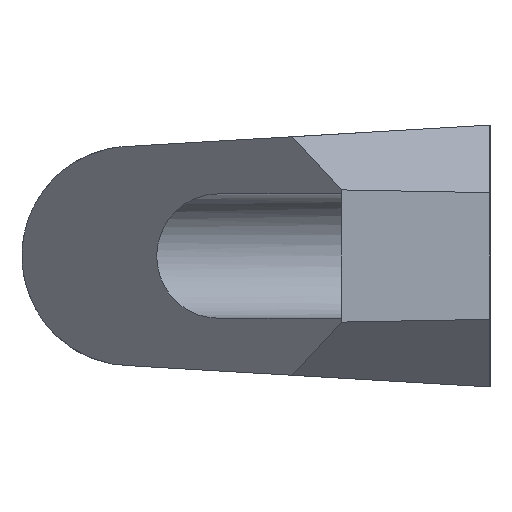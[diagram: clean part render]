
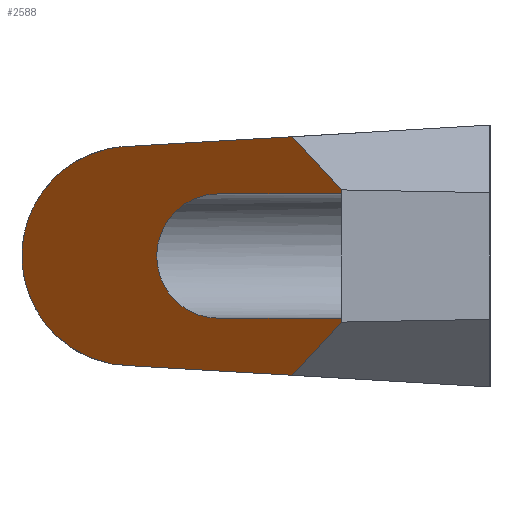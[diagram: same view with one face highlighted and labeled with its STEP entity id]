
A CAD part, left-side view. The second image highlights one B-rep face of the part: STEP entity #2588.
In plain terms, the highlighted planar face has unit normal (-0.701, 0.714, 0).
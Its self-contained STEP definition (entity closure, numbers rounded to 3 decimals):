
#12 = VERTEX_POINT ( 'NONE', #912 ) ;
#34 = EDGE_CURVE ( 'NONE', #12, #35, #1001, .T. ) ;
#35 = VERTEX_POINT ( 'NONE', #983 ) ;
#44 = PLANE ( 'NONE',  #86 ) ;
#63 = FACE_OUTER_BOUND ( 'NONE', #2600, .T. ) ;
#65 = CARTESIAN_POINT ( 'NONE',  ( -430.093, 17.6, -7.826 ) ) ;
#68 = CARTESIAN_POINT ( 'NONE',  ( -424.154, 23.432, -14.118 ) ) ;
#69 = CARTESIAN_POINT ( 'NONE',  ( -415.2, 32.225, -7.35 ) ) ;
#70 = CARTESIAN_POINT ( 'NONE',  ( -400.5, 46.66, -7.35 ) ) ;
#71 = CARTESIAN_POINT ( 'NONE',  ( -400.5, 46.66, 7.35 ) ) ;
#72 = CARTESIAN_POINT ( 'NONE',  ( -415.2, 32.225, 7.35 ) ) ;
#73 = LINE ( 'NONE', #112, #111 ) ;
#74 =( BOUNDED_CURVE ( )  B_SPLINE_CURVE ( 3, ( #72, #71, #70, #69 ),
 .UNSPECIFIED., .F., .F. ) 
 B_SPLINE_CURVE_WITH_KNOTS ( ( 4, 4 ),
 ( 1.571, 4.712 ),
 .UNSPECIFIED. ) 
 CURVE ( )  GEOMETRIC_REPRESENTATION_ITEM ( )  RATIONAL_B_SPLINE_CURVE ( ( 1., 0.333, 0.333, 1. ) ) 
 REPRESENTATION_ITEM ( '' )  );
#75 = CARTESIAN_POINT ( 'NONE',  ( -430.093, 17.6, -7.35 ) ) ;
#78 = CARTESIAN_POINT ( 'NONE',  ( -415.2, 32.225, -7.35 ) ) ;
#79 = CARTESIAN_POINT ( 'NONE',  ( -415.2, 32.225, 7.35 ) ) ;
#80 = DIRECTION ( 'NONE',  ( -0.569, -0.559, -0.603 ) ) ;
#81 = VECTOR ( 'NONE', #80, 1000. ) ;
#82 = CARTESIAN_POINT ( 'NONE',  ( -427.459, 20.187, 10.617 ) ) ;
#83 = DIRECTION ( 'NONE',  ( -0.713, -0.701, 0. ) ) ;
#84 = DIRECTION ( 'NONE',  ( 0.701, -0.713, 0. ) ) ;
#85 = CARTESIAN_POINT ( 'NONE',  ( -430.093, 17.6, 15.5 ) ) ;
#86 = AXIS2_PLACEMENT_3D ( 'NONE', #85, #84, #83 ) ;
#87 = LINE ( 'NONE', #82, #81 ) ;
#96 = CARTESIAN_POINT ( 'NONE',  ( -430.093, 17.6, -7.35 ) ) ;
#97 = LINE ( 'NONE', #96, #146 ) ;
#110 = DIRECTION ( 'NONE',  ( 0.569, 0.559, -0.603 ) ) ;
#111 = VECTOR ( 'NONE', #110, 1000. ) ;
#112 = CARTESIAN_POINT ( 'NONE',  ( -438.099, 9.738, 0.658 ) ) ;
#114 = DIRECTION ( 'NONE',  ( 0.713, 0.7, 0.041 ) ) ;
#115 = VECTOR ( 'NONE', #114, 1000. ) ;
#116 = CARTESIAN_POINT ( 'NONE',  ( -429.211, 18.466, -14.411 ) ) ;
#117 = LINE ( 'NONE', #116, #115 ) ;
#118 = DIRECTION ( 'NONE',  ( 0.713, 0.701, 0. ) ) ;
#119 = VECTOR ( 'NONE', #118, 1000. ) ;
#120 = CARTESIAN_POINT ( 'NONE',  ( -430.093, 17.6, 7.35 ) ) ;
#122 = DIRECTION ( 'NONE',  ( 0., 0., -1. ) ) ;
#123 = VECTOR ( 'NONE', #122, 1000. ) ;
#124 = CARTESIAN_POINT ( 'NONE',  ( -430.093, 17.6, 15.5 ) ) ;
#125 = LINE ( 'NONE', #124, #123 ) ;
#126 = LINE ( 'NONE', #120, #119 ) ;
#145 = DIRECTION ( 'NONE',  ( -0.713, -0.701, 0. ) ) ;
#146 = VECTOR ( 'NONE', #145, 1000. ) ;
#362 = VERTEX_POINT ( 'NONE', #1457 ) ;
#912 = CARTESIAN_POINT ( 'NONE',  ( -430.093, 17.6, 7.826 ) ) ;
#980 = DIRECTION ( 'NONE',  ( 0., 0., -1. ) ) ;
#981 = VECTOR ( 'NONE', #980, 1000. ) ;
#983 = CARTESIAN_POINT ( 'NONE',  ( -430.093, 17.6, 7.35 ) ) ;
#984 = CARTESIAN_POINT ( 'NONE',  ( -430.093, 17.6, 15.5 ) ) ;
#1001 = LINE ( 'NONE', #984, #981 ) ;
#1457 = CARTESIAN_POINT ( 'NONE',  ( -404.838, 42.4, -13. ) ) ;
#2455 = CARTESIAN_POINT ( 'NONE',  ( -424.154, 23.432, 14.118 ) ) ;
#2492 = CARTESIAN_POINT ( 'NONE',  ( -404.838, 42.4, 13. ) ) ;
#2493 = CARTESIAN_POINT ( 'NONE',  ( -378.362, 68.4, 13. ) ) ;
#2494 = CARTESIAN_POINT ( 'NONE',  ( -378.362, 68.4, -13. ) ) ;
#2495 = CARTESIAN_POINT ( 'NONE',  ( -404.838, 42.4, -13. ) ) ;
#2496 =( BOUNDED_CURVE ( )  B_SPLINE_CURVE ( 3, ( #2495, #2494, #2493, #2492 ),
 .UNSPECIFIED., .F., .T. ) 
 B_SPLINE_CURVE_WITH_KNOTS ( ( 4, 4 ),
 ( 4.712, 7.854 ),
 .UNSPECIFIED. ) 
 CURVE ( )  GEOMETRIC_REPRESENTATION_ITEM ( )  RATIONAL_B_SPLINE_CURVE ( ( 1., 0.333, 0.333, 1. ) ) 
 REPRESENTATION_ITEM ( '' )  );
#2522 = DIRECTION ( 'NONE',  ( -0.713, -0.7, 0.041 ) ) ;
#2523 = VECTOR ( 'NONE', #2522, 1000. ) ;
#2526 = CARTESIAN_POINT ( 'NONE',  ( -404.838, 42.4, 13. ) ) ;
#2527 = LINE ( 'NONE', #2528, #2523 ) ;
#2528 = CARTESIAN_POINT ( 'NONE',  ( -430.123, 17.57, 14.464 ) ) ;
#2561 = VERTEX_POINT ( 'NONE', #2455 ) ;
#2565 = EDGE_CURVE ( 'NONE', #362, #2570, #2496, .T. ) ;
#2569 = EDGE_CURVE ( 'NONE', #2570, #2561, #2527, .T. ) ;
#2570 = VERTEX_POINT ( 'NONE', #2526 ) ;
#2588 = ADVANCED_FACE ( 'NONE', ( #63 ), #44, .F. ) ;
#2589 = EDGE_CURVE ( 'NONE', #2561, #12, #87, .T. ) ;
#2592 = VERTEX_POINT ( 'NONE', #79 ) ;
#2593 = VERTEX_POINT ( 'NONE', #78 ) ;
#2594 = EDGE_CURVE ( 'NONE', #2592, #2593, #74, .T. ) ;
#2595 = VERTEX_POINT ( 'NONE', #65 ) ;
#2596 = VERTEX_POINT ( 'NONE', #75 ) ;
#2599 = EDGE_CURVE ( 'NONE', #2596, #2595, #125, .T. ) ;
#2600 = EDGE_LOOP ( 'NONE', ( #2611, #2609, #2616, #2615, #2606, #2605, #2603, #2614, #2602, #2625 ) ) ;
#2601 = VERTEX_POINT ( 'NONE', #68 ) ;
#2602 = ORIENTED_EDGE ( 'NONE', *, *, #2599, .F. ) ;
#2603 = ORIENTED_EDGE ( 'NONE', *, *, #2607, .F. ) ;
#2605 = ORIENTED_EDGE ( 'NONE', *, *, #2565, .F. ) ;
#2606 = ORIENTED_EDGE ( 'NONE', *, *, #2569, .F. ) ;
#2607 = EDGE_CURVE ( 'NONE', #2601, #362, #117, .T. ) ;
#2608 = EDGE_CURVE ( 'NONE', #2595, #2601, #73, .T. ) ;
#2609 = ORIENTED_EDGE ( 'NONE', *, *, #2617, .F. ) ;
#2611 = ORIENTED_EDGE ( 'NONE', *, *, #2594, .F. ) ;
#2614 = ORIENTED_EDGE ( 'NONE', *, *, #2608, .F. ) ;
#2615 = ORIENTED_EDGE ( 'NONE', *, *, #2589, .F. ) ;
#2616 = ORIENTED_EDGE ( 'NONE', *, *, #34, .F. ) ;
#2617 = EDGE_CURVE ( 'NONE', #35, #2592, #126, .T. ) ;
#2621 = EDGE_CURVE ( 'NONE', #2593, #2596, #97, .T. ) ;
#2625 = ORIENTED_EDGE ( 'NONE', *, *, #2621, .F. ) ;
